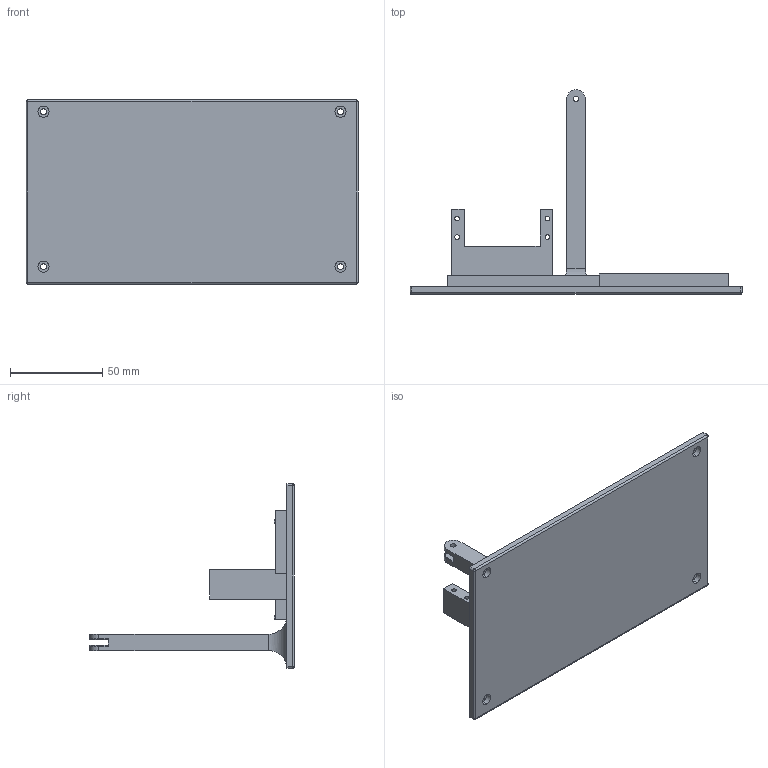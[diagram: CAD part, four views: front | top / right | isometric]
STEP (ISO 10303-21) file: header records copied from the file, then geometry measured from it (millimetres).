
FILE_DESCRIPTION (( 'STEP AP214' ), '1' );
FILE_NAME ('Main_Gehäuse.STEP', '2025-12-13T16:06:35', ( '' ), ( '' ), 'SwSTEP 2.0', 'SolidWorks 2025', '' );
FILE_SCHEMA (( 'AUTOMOTIVE_DESIGN' ));
Length unit declared in the file: millimetre
Products named in the file (1): Main_Gehäuse
Bounding box: 180 x 111 x 100 mm (x, y, z)
Volume: 112750.4 mm3; surface area: 52434.1 mm2
Topology: 1 solids, 1 shells, 140 faces, 360 edges, 229 vertices
Faces by surface type: plane 72, cylinder 60, sphere 4, torus 4
Entity records: 4347 total; most frequent: CARTESIAN_POINT 801, DIRECTION 755, ORIENTED_EDGE 712, EDGE_CURVE 356, AXIS2_PLACEMENT_3D 263, LINE 229, VERTEX_POINT 229, VECTOR 229
